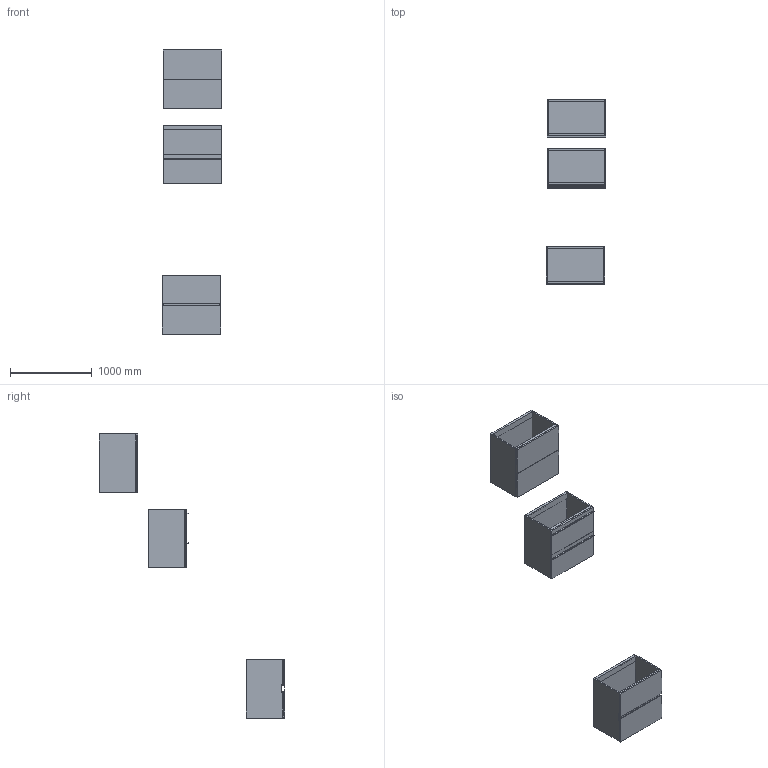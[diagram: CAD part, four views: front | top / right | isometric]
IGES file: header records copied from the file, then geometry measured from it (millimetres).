
Start section: Data from Parasolid IGES Translator 19.0.9, Copyright(c) 2006 Siemens PL M Software. All Rights Reserved.
Global section: file name: noorth-SI-H 72 D 47 W 72_8607.igs; native system: By Siemens PLM Incorporated; preprocessor: XPlus GENERIC/IGES 19.0.9; author: Noname; organization: Noname; date: 20200601.121123; units: metre
Bounding box: 731.38 x 2270 x 3480.01 mm (x, y, z)
Volume: 85018531 mm3; surface area: 13118084.5 mm2
Topology: 27 solids, 27 shells, 266 faces, 580 edges, 348 vertices
Faces by surface type: plane 182, extrusion 36, bspline 32, cylinder 16
